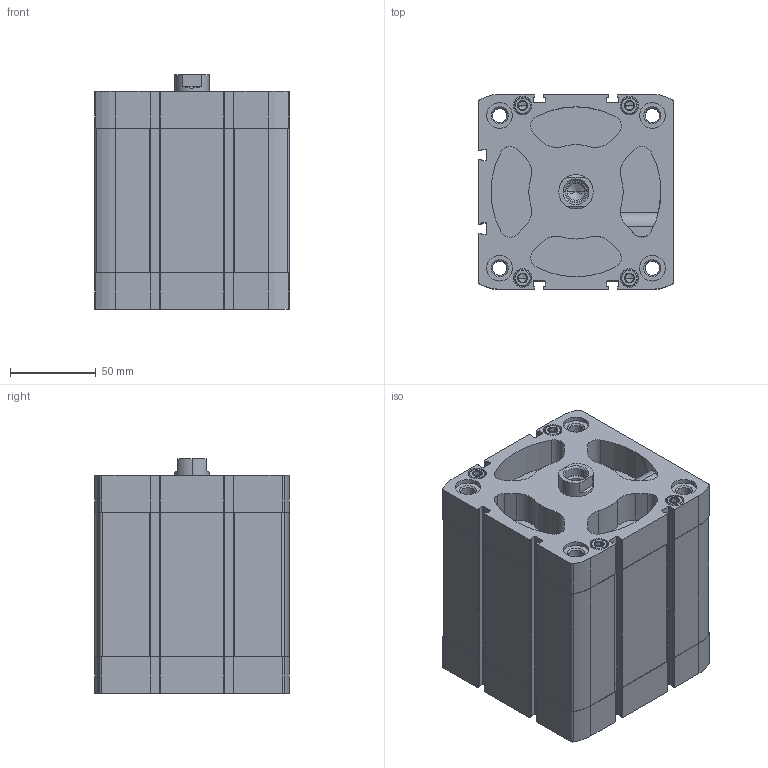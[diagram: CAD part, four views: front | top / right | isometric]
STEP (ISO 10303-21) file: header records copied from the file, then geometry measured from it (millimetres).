
FILE_DESCRIPTION (( 'STEP AP203' ), '1' );
FILE_NAME ('CCN100-60F.STEP', '2020-06-05T18:14:17', ( '' ), ( '' ), 'SwSTEP 2.0', 'SolidWorks 2019', '' );
FILE_SCHEMA (( 'CONFIG_CONTROL_DESIGN' ));
Length unit declared in the file: millimetre
Products named in the file (1): CCN100-60F
Bounding box: 113.5 x 113.5 x 136.8 mm (x, y, z)
Volume: 965846.5 mm3; surface area: 201250.7 mm2
Topology: 2 solids, 2 shells, 628 faces, 1631 edges, 1043 vertices
Faces by surface type: plane 284, cylinder 270, cone 74
Entity records: 20342 total; most frequent: CARTESIAN_POINT 4507, DIRECTION 3451, ORIENTED_EDGE 3226, EDGE_CURVE 1613, AXIS2_PLACEMENT_3D 1281, VERTEX_POINT 1043, LINE 889, VECTOR 889
